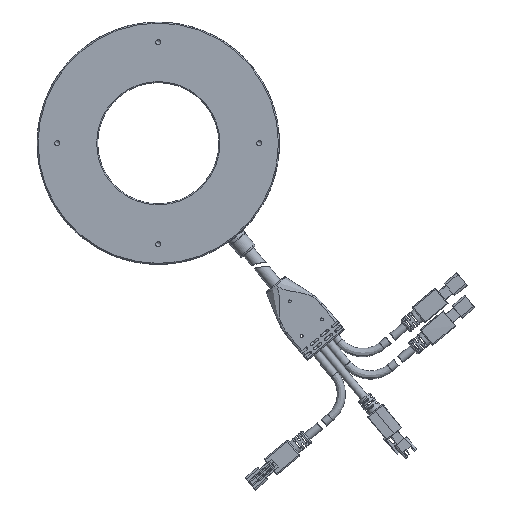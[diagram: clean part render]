
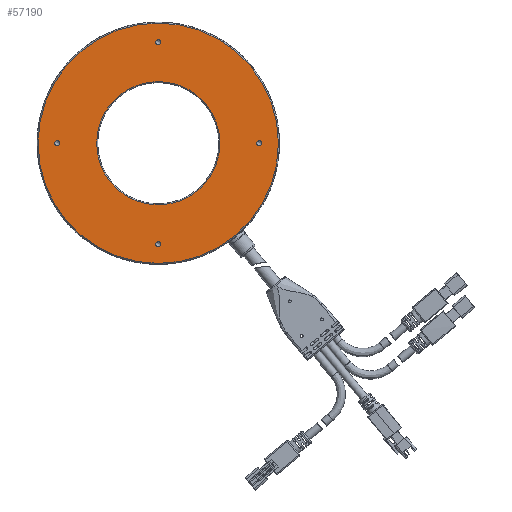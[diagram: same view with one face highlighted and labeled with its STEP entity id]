
A CAD part, front view. The second image highlights one B-rep face of the part: STEP entity #57190.
In plain terms, the highlighted planar face has unit normal (0, -1, 0).
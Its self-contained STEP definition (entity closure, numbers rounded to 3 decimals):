
#224 = CIRCLE ( 'NONE', #51984, 1.25 ) ;
#3238 = ORIENTED_EDGE ( 'NONE', *, *, #13400, .T. ) ;
#3313 = VERTEX_POINT ( 'NONE', #27204 ) ;
#3760 = CIRCLE ( 'NONE', #39450, 59.5 ) ;
#4115 = EDGE_LOOP ( 'NONE', ( #54468 ) ) ;
#4174 = CARTESIAN_POINT ( 'NONE',  ( -50., 0., 1.25 ) ) ;
#4894 = EDGE_LOOP ( 'NONE', ( #56687 ) ) ;
#8940 = EDGE_LOOP ( 'NONE', ( #29398 ) ) ;
#10192 = VERTEX_POINT ( 'NONE', #25690 ) ;
#10246 = CARTESIAN_POINT ( 'NONE',  ( 0., 0., -50. ) ) ;
#10698 = CIRCLE ( 'NONE', #47072, 1.25 ) ;
#11965 = CARTESIAN_POINT ( 'NONE',  ( -50., 0., 0. ) ) ;
#13039 = AXIS2_PLACEMENT_3D ( 'NONE', #11965, #29286, #29477 ) ;
#13215 = CARTESIAN_POINT ( 'NONE',  ( 0., 0., 50. ) ) ;
#13400 = EDGE_CURVE ( 'NONE', #10192, #10192, #38310, .T. ) ;
#13490 = DIRECTION ( 'NONE',  ( 0., 1., 0. ) ) ;
#17676 = DIRECTION ( 'NONE',  ( 0., 1., 0. ) ) ;
#17692 = CARTESIAN_POINT ( 'NONE',  ( 0., 0., 59.5 ) ) ;
#18607 = AXIS2_PLACEMENT_3D ( 'NONE', #10246, #45773, #50200 ) ;
#19506 = EDGE_CURVE ( 'NONE', #32419, #32419, #224, .T. ) ;
#21999 = FACE_BOUND ( 'NONE', #23495, .T. ) ;
#22150 = CARTESIAN_POINT ( 'NONE',  ( 0., 0., 30.5 ) ) ;
#22763 = DIRECTION ( 'NONE',  ( 0., 0., 1. ) ) ;
#22858 = EDGE_CURVE ( 'NONE', #38640, #38640, #40176, .T. ) ;
#23495 = EDGE_LOOP ( 'NONE', ( #27654 ) ) ;
#25690 = CARTESIAN_POINT ( 'NONE',  ( 0., 0., -48.75 ) ) ;
#26917 = FACE_OUTER_BOUND ( 'NONE', #4115, .T. ) ;
#27204 = CARTESIAN_POINT ( 'NONE',  ( 50., 0., 1.25 ) ) ;
#27654 = ORIENTED_EDGE ( 'NONE', *, *, #28183, .T. ) ;
#28183 = EDGE_CURVE ( 'NONE', #3313, #3313, #10698, .T. ) ;
#28413 = DIRECTION ( 'NONE',  ( 0., 1., 0. ) ) ;
#29286 = DIRECTION ( 'NONE',  ( 0., 1., 0. ) ) ;
#29374 = DIRECTION ( 'NONE',  ( 0., 0., 1. ) ) ;
#29398 = ORIENTED_EDGE ( 'NONE', *, *, #53200, .T. ) ;
#29477 = DIRECTION ( 'NONE',  ( 0., 0., 1. ) ) ;
#29929 = ORIENTED_EDGE ( 'NONE', *, *, #22858, .T. ) ;
#30648 = CARTESIAN_POINT ( 'NONE',  ( 30., 0., 0. ) ) ;
#30834 = DIRECTION ( 'NONE',  ( 0., 0., 1. ) ) ;
#31009 = VERTEX_POINT ( 'NONE', #17692 ) ;
#31207 = EDGE_LOOP ( 'NONE', ( #3238 ) ) ;
#31552 = DIRECTION ( 'NONE',  ( 0., -1., 0. ) ) ;
#32419 = VERTEX_POINT ( 'NONE', #35180 ) ;
#34570 = FACE_BOUND ( 'NONE', #40853, .T. ) ;
#35180 = CARTESIAN_POINT ( 'NONE',  ( 0., 0., 51.25 ) ) ;
#36724 = CIRCLE ( 'NONE', #51873, 30.5 ) ;
#38310 = CIRCLE ( 'NONE', #18607, 1.25 ) ;
#38640 = VERTEX_POINT ( 'NONE', #4174 ) ;
#39073 = DIRECTION ( 'NONE',  ( 0., 0., 1. ) ) ;
#39450 = AXIS2_PLACEMENT_3D ( 'NONE', #48796, #31552, #22763 ) ;
#40176 = CIRCLE ( 'NONE', #13039, 1.25 ) ;
#40853 = EDGE_LOOP ( 'NONE', ( #29929 ) ) ;
#42158 = DIRECTION ( 'NONE',  ( 0., 0., 1. ) ) ;
#42515 = DIRECTION ( 'NONE',  ( 0., 1., 0. ) ) ;
#44361 = PLANE ( 'NONE',  #54194 ) ;
#45773 = DIRECTION ( 'NONE',  ( 0., 1., 0. ) ) ;
#46346 = FACE_BOUND ( 'NONE', #8940, .T. ) ;
#47072 = AXIS2_PLACEMENT_3D ( 'NONE', #55826, #42515, #29374 ) ;
#48392 = FACE_BOUND ( 'NONE', #31207, .T. ) ;
#48553 = EDGE_CURVE ( 'NONE', #31009, #31009, #3760, .T. ) ;
#48796 = CARTESIAN_POINT ( 'NONE',  ( 0., 0., 0. ) ) ;
#50200 = DIRECTION ( 'NONE',  ( 0., 0., 1. ) ) ;
#50375 = VERTEX_POINT ( 'NONE', #22150 ) ;
#50487 = FACE_BOUND ( 'NONE', #4894, .T. ) ;
#51081 = CARTESIAN_POINT ( 'NONE',  ( 0., 0., 0. ) ) ;
#51873 = AXIS2_PLACEMENT_3D ( 'NONE', #51081, #28413, #42158 ) ;
#51984 = AXIS2_PLACEMENT_3D ( 'NONE', #13215, #17676, #39073 ) ;
#53200 = EDGE_CURVE ( 'NONE', #50375, #50375, #36724, .T. ) ;
#54194 = AXIS2_PLACEMENT_3D ( 'NONE', #30648, #13490, #30834 ) ;
#54468 = ORIENTED_EDGE ( 'NONE', *, *, #48553, .T. ) ;
#55826 = CARTESIAN_POINT ( 'NONE',  ( 50., 0., 0. ) ) ;
#56687 = ORIENTED_EDGE ( 'NONE', *, *, #19506, .T. ) ;
#57190 = ADVANCED_FACE ( 'NONE', ( #46346, #26917, #48392, #34570, #50487, #21999 ), #44361, .F. ) ;
